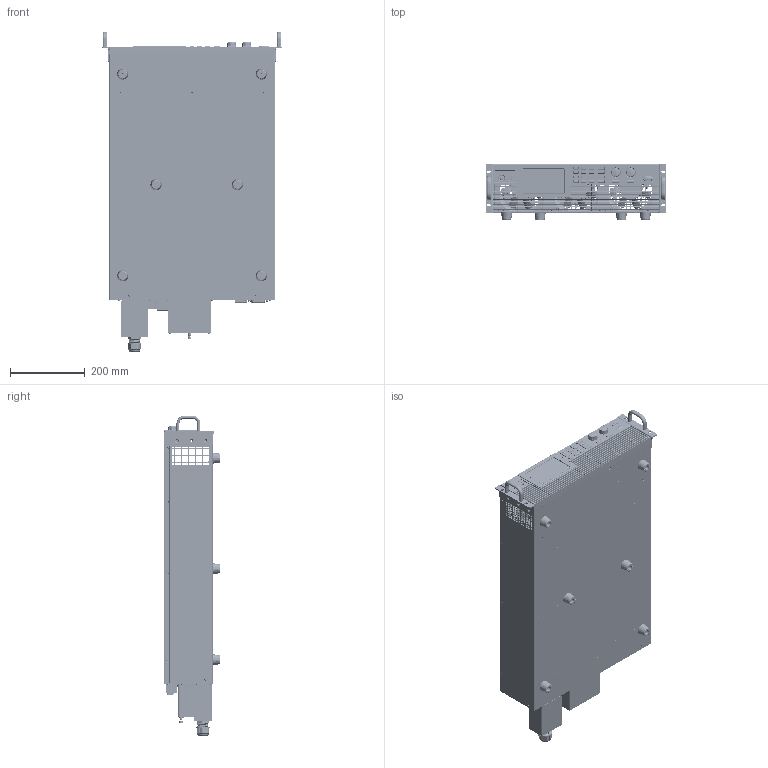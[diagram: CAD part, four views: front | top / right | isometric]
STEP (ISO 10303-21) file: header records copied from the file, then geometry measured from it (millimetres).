
FILE_DESCRIPTION((''),'2;1');
FILE_NAME('PHU-15K_ASM_ASM_ASM','2024-10-11T14:21:09',('jeffery_kuo'),(''),'CREO PARAMETRIC BY PTC INC, 2019080','CREO PARAMETRIC BY PTC INC, 2019080','');
FILE_SCHEMA(('CONFIG_CONTROL_DESIGN'));
Products named in the file (182): PHU-15K_ASM_SKEL0001_18; PHU-15K-F1_ASM_SKEL0002_33; 63FP-SG103701_123; INSERT-CU_2; 63FP-SG103701_ASM_29_ASM; ASR6000_OUTPUT_PROTECT_FRAME-C_; PHU15K_FRAME-C_ASM_11_ASM; PHU15K_KEY_PCB-C_54; 44UB-K0401101-ARIBA_105; ENCODE_SW_L25-ALPS_8; CTT-1137_102; LED16X125S_100; PHU-15K-KEY-PCB_ASM-C_ASM_123_ASM; TH050800480NYR50S1_106; 62HU-1K0HP101_8; 51PM-83100201_10; 57RG-20B06301_2; 57RG-20B06201_2; PHU15K_LCD_ASM_ASM_115_ASM; 57RB-40G17801_65; 57RB-40G17901_55; 57RB-40G18301_12; 5005-240G0301_20; PHU15K_MODEL_NP-C_10; 51HU-1K000101_9; 57RB-40G16101_49; BTS-LOCK-3X6_4; PHU15K_FRONT_ASM-C_ASM_82_ASM; BMS-W-3X8_11; PHU-15K-F1_ASM_ASM_255_ASM; PHU-15K-LO1_ASM_SKEL0001_31; 62HU-1K0LO101_82; 62HU-1K0LO101-LO-3X6PIN_3; SO-M3-7_10; 62HU-1K0LO101_ASM_83_ASM; 57IL-28F29101_18; 57FC-10B01201_10; 62HU-1K0HP201_66; 62HU-1K0HP201_ASM_5_ASM; 62HU-1K0HP301_21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
Assembly tree (536 placements, depth 7):
  PHU-15K_ASM_ASM_ASM
    PHU-15K_ASM_ASM_840_ASM
      PHU-15K_ASM_SKEL0001_18
      PHU-15K-F1_ASM_ASM_255_ASM
        PHU-15K-F1_ASM_SKEL0002_33
        PHU15K_FRONT_ASM-C_ASM_82_ASM
          PHU15K_FRAME-C_ASM_11_ASM
            63FP-SG103701_ASM_29_ASM
              63FP-SG103701_123
              INSERT-CU_2  x8
            ASR6000_OUTPUT_PROTECT_FRAME-C_
          PHU-15K-KEY-PCB_ASM-C_ASM_123_ASM
            PHU15K_KEY_PCB-C_54
            44UB-K0401101-ARIBA_105
            ENCODE_SW_L25-ALPS_8  x2
            CTT-1137_102  x21
            LED16X125S_100  x8
          PHU15K_LCD_ASM_ASM_115_ASM
            TH050800480NYR50S1_106
            62HU-1K0HP101_8
            51PM-83100201_10
            57RG-20B06301_2  x2
            57RG-20B06201_2  x2
          57RB-40G17801_65
          57RB-40G17901_55
          57RB-40G18301_12
          5005-240G0301_20  x2
          PHU15K_MODEL_NP-C_10
          51HU-1K000101_9
          57RB-40G16101_49
          BTS-LOCK-3X6_4  x18
        BMS-W-3X8_11  x8
      PHU-15K-LO1_ASM_ASM_256_ASM
        PHU-15K-LO1_ASM_SKEL0001_31
        62HU-1K0LO101_ASM_83_ASM
          62HU-1K0LO101_82
          62HU-1K0LO101-LO-3X6PIN_3  x10
          SO-M3-7_10  x40
        57IL-28F29101_18  x3
        57FC-10B01201_10  x6
        PHU-15K-FAN-HP1_ASM_ASM_24_ASM
          62HU-1K0HP201_ASM_5_ASM
            62HU-1K0HP201_66
          62HU-1K0HP301_ASM_7_ASM  x3
            62HU-1K0HP301_21
          FAN-119X119-25_1  x3
          SR-4KT_ASM_103_ASM  x12
            5320-01000501-SR-4KT-Z_101
            5320-01000401-SR-4KT-A_100
        PHU-15K-AUX-POWER_ASM-1_ASM_51_ASM
          PHU-15K-AUX-POWER-1_14
          0032-2404-SP-03-DINKLE_7
          39PC-20401701-PCB-27-M4-KY_6  x4
          39PC-20401501-PCB-7-M4-KY_5  x4
          39PC-20401601-PCB-8-M4-KY_3  x4
          62HU-1K0CP101_ASM_8_ASM
            62HU-1K0CP101_8
          62HU-1K0CP201_ASM_10_ASM
            62HU-1K0CP201_12
          62HU-1K0CP301_ASM_10_ASM
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Bounding box: 482.6 x 149.75 x 855 mm (x, y, z)
Volume: 2160355.1 mm3; surface area: 3121218.9 mm2
Topology: 492 solids, 510 shells, 31256 faces, 82761 edges, 53044 vertices
Faces by surface type: plane 19667, cylinder 7752, cone 1980, torus 703, sphere 543, bspline 503, extrusion 100, revolution 8
Entity records: 624128 total; most frequent: CARTESIAN_POINT 167383, ORIENTED_EDGE 95784, DIRECTION 91036, EDGE_CURVE 47892, VECTOR 34374, LINE 34354, VERTEX_POINT 30955, AXIS2_PLACEMENT_3D 28327
